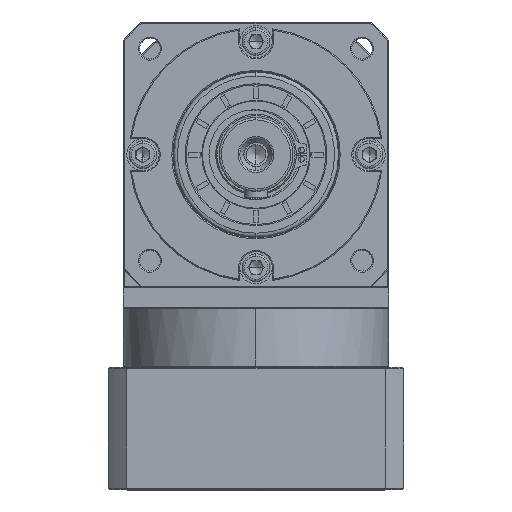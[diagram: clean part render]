
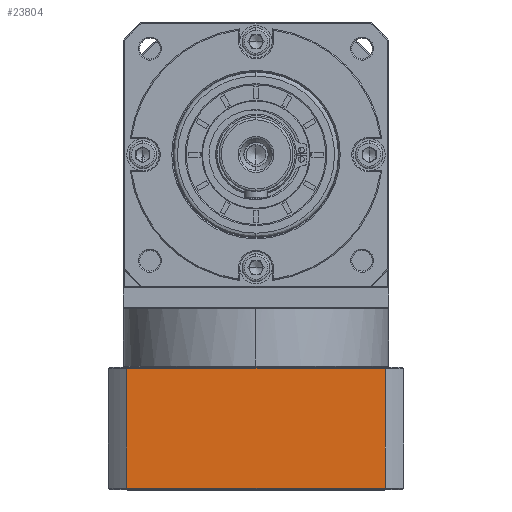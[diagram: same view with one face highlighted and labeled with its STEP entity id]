
A CAD part, top view. The second image highlights one B-rep face of the part: STEP entity #23804.
In plain terms, the highlighted planar face has unit normal (0, 0, 1).
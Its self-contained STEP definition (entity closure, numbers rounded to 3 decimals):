
#7140 = VERTEX_POINT ( 'NONE', #157679 ) ;
#12579 = ORIENTED_EDGE ( 'NONE', *, *, #95441, .F. ) ;
#15077 = CARTESIAN_POINT ( 'NONE',  ( -153.23, 99.535, 58.391 ) ) ;
#15191 = ORIENTED_EDGE ( 'NONE', *, *, #63196, .F. ) ;
#18548 = LINE ( 'NONE', #118859, #85869 ) ;
#23804 = ADVANCED_FACE ( 'NONE', ( #50231 ), #44918, .F. ) ;
#31942 = DIRECTION ( 'NONE',  ( 0., 0., -1. ) ) ;
#34644 = VECTOR ( 'NONE', #104332, 1000. ) ;
#37743 = DIRECTION ( 'NONE',  ( -1., 0., 0. ) ) ;
#44918 = PLANE ( 'NONE',  #99233 ) ;
#50231 = FACE_OUTER_BOUND ( 'NONE', #122467, .T. ) ;
#52654 = ORIENTED_EDGE ( 'NONE', *, *, #89294, .F. ) ;
#57376 = VERTEX_POINT ( 'NONE', #153052 ) ;
#57716 = VERTEX_POINT ( 'NONE', #68901 ) ;
#61909 = ORIENTED_EDGE ( 'NONE', *, *, #148785, .F. ) ;
#63196 = EDGE_CURVE ( 'NONE', #170457, #57376, #70414, .T. ) ;
#68901 = CARTESIAN_POINT ( 'NONE',  ( -265.105, -195.785, 58.391 ) ) ;
#70414 = LINE ( 'NONE', #77268, #34644 ) ;
#72932 = VECTOR ( 'NONE', #122662, 1000. ) ;
#74363 = DIRECTION ( 'NONE',  ( 0., 1., 0. ) ) ;
#77268 = CARTESIAN_POINT ( 'NONE',  ( -273.167, -143.785, 58.391 ) ) ;
#85869 = VECTOR ( 'NONE', #37743, 1000. ) ;
#89294 = EDGE_CURVE ( 'NONE', #7140, #57716, #18548, .T. ) ;
#95301 = VECTOR ( 'NONE', #74363, 1000. ) ;
#95441 = EDGE_CURVE ( 'NONE', #57376, #7140, #108614, .T. ) ;
#99233 = AXIS2_PLACEMENT_3D ( 'NONE', #112455, #31942, #126013 ) ;
#104332 = DIRECTION ( 'NONE',  ( 1., 0., 0. ) ) ;
#108614 = LINE ( 'NONE', #15077, #72932 ) ;
#112455 = CARTESIAN_POINT ( 'NONE',  ( -273.167, -196.285, 58.391 ) ) ;
#118859 = CARTESIAN_POINT ( 'NONE',  ( -273.167, -195.785, 58.391 ) ) ;
#122467 = EDGE_LOOP ( 'NONE', ( #12579, #15191, #61909, #52654 ) ) ;
#122662 = DIRECTION ( 'NONE',  ( 0., -1., 0. ) ) ;
#126013 = DIRECTION ( 'NONE',  ( -1., 0., 0. ) ) ;
#131113 = LINE ( 'NONE', #154766, #95301 ) ;
#148785 = EDGE_CURVE ( 'NONE', #57716, #170457, #131113, .T. ) ;
#153052 = CARTESIAN_POINT ( 'NONE',  ( -153.23, -143.785, 58.391 ) ) ;
#154766 = CARTESIAN_POINT ( 'NONE',  ( -265.105, -196.285, 58.391 ) ) ;
#157137 = CARTESIAN_POINT ( 'NONE',  ( -265.105, -143.785, 58.391 ) ) ;
#157679 = CARTESIAN_POINT ( 'NONE',  ( -153.23, -195.785, 58.391 ) ) ;
#170457 = VERTEX_POINT ( 'NONE', #157137 ) ;
